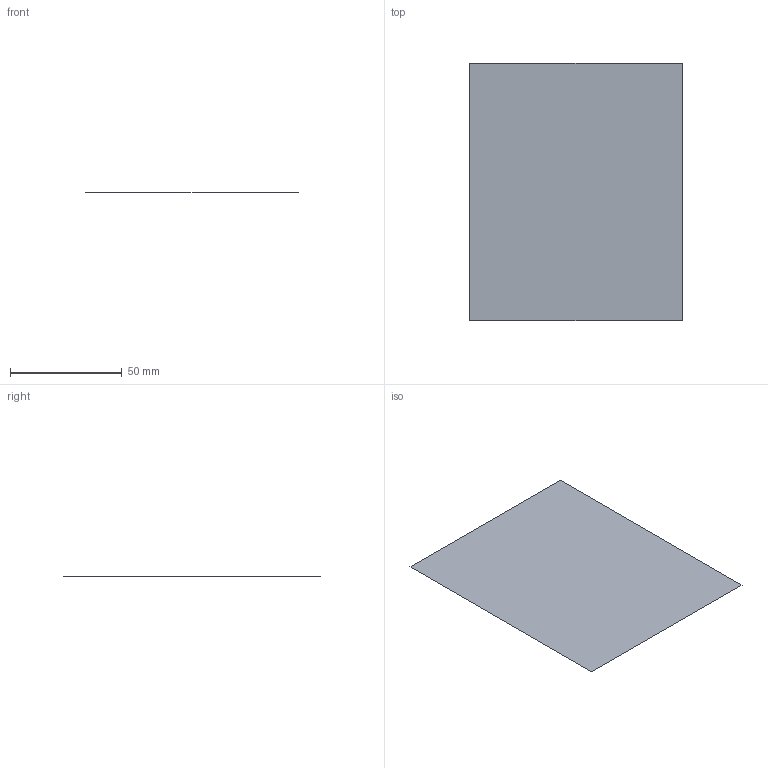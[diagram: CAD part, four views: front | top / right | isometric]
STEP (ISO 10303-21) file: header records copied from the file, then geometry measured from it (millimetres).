
FILE_DESCRIPTION(('CATIA V5 STEP Exchange'),'2;1');
FILE_NAME('C:\_Andres\UNIVERSIDAD\IQS\ASIGNATURAS\DAO\EXF\EXF-15161c\1original\Elvira_Arias_Ej06-calculo_v5.stp','2016-03-04T20:57:42+00:00',('none'),('none'),'CATIA Version 5 Release 20 SP 1 (IN-10)','CATIA V5 STEP AP203','none');
FILE_SCHEMA(('CONFIG_CONTROL_DESIGN'));
Length unit declared in the file: millimetre
Products named in the file (1): Elvira_Arias_Ej06-calculo_v5
Bounding box: 95 x 115 x 0 mm (x, y, z)
Surface area: 10925 mm2 (no closed solid volume)
Topology: 0 solids, 1 shells, 1 faces, 8 edges, 9 vertices
Faces by surface type: plane 1
Entity records: 130 total; most frequent: CARTESIAN_POINT 23, DIRECTION 12, VECTOR 8, LINE 8, COMPOSITE_CURVE_SEGMENT 4, ORIENTED_EDGE 4, CC_DESIGN_PERSON_AND_ORGANIZATION_ASSIGNMENT 4, PERSON_AND_ORGANIZATION_ROLE 4
